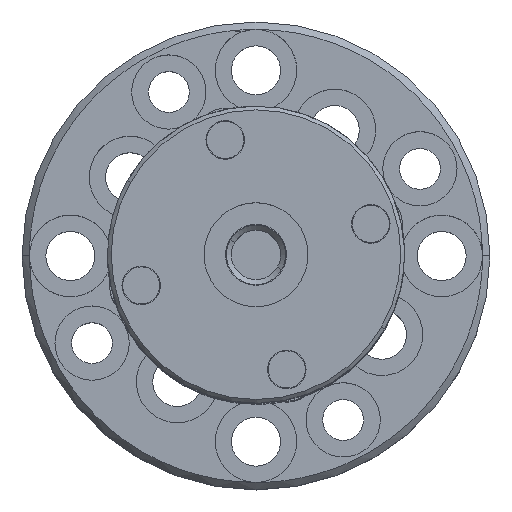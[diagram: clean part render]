
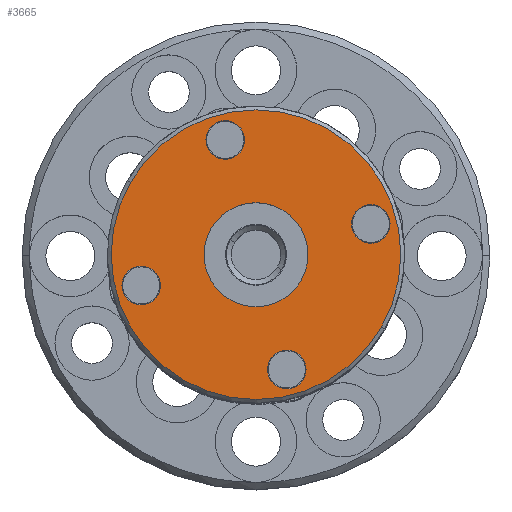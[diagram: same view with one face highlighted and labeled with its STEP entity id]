
A CAD part, top view. The second image highlights one B-rep face of the part: STEP entity #3665.
In plain terms, the highlighted planar face has unit normal (0, 0, 1).
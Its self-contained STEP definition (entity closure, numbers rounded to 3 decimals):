
#225 = ORIENTED_EDGE ( 'NONE', *, *, #18346, .T. ) ;
#433 = CARTESIAN_POINT ( 'NONE',  ( 0., 0., 105. ) ) ;
#485 = VERTEX_POINT ( 'NONE', #17928 ) ;
#488 = FACE_OUTER_BOUND ( 'NONE', #12272, .T. ) ;
#521 = DIRECTION ( 'NONE',  ( 0.866, -0.5, 0. ) ) ;
#548 = DIRECTION ( 'NONE',  ( 0., 0., -1. ) ) ;
#795 = CARTESIAN_POINT ( 'NONE',  ( -1.889, 14.155, 105. ) ) ;
#1003 = VERTEX_POINT ( 'NONE', #9321 ) ;
#1271 = ORIENTED_EDGE ( 'NONE', *, *, #7167, .T. ) ;
#2050 = DIRECTION ( 'NONE',  ( 0.866, -0.5, 0. ) ) ;
#2139 = CARTESIAN_POINT ( 'NONE',  ( 0., 0., 105. ) ) ;
#2197 = ORIENTED_EDGE ( 'NONE', *, *, #7912, .T. ) ;
#2254 = CARTESIAN_POINT ( 'NONE',  ( 1.889, -14.155, 105. ) ) ;
#2540 = DIRECTION ( 'NONE',  ( 0., 0., -1. ) ) ;
#2952 = CARTESIAN_POINT ( 'NONE',  ( -15.455, -4.141, 105. ) ) ;
#3186 = CARTESIAN_POINT ( 'NONE',  ( 0., 0., 105. ) ) ;
#3250 = DIRECTION ( 'NONE',  ( 0., 0., -1. ) ) ;
#3417 = EDGE_LOOP ( 'NONE', ( #6519, #15400 ) ) ;
#3532 = DIRECTION ( 'NONE',  ( 0., 0., -1. ) ) ;
#3665 = ADVANCED_FACE ( 'NONE', ( #488, #18617, #16872, #12857, #12652, #8493 ), #11625, .F. ) ;
#3750 = ORIENTED_EDGE ( 'NONE', *, *, #9901, .T. ) ;
#3784 = DIRECTION ( 'NONE',  ( 0.866, -0.5, 0. ) ) ;
#3938 = AXIS2_PLACEMENT_3D ( 'NONE', #12657, #3250, #14276 ) ;
#4033 = AXIS2_PLACEMENT_3D ( 'NONE', #19574, #10108, #521 ) ;
#4044 = EDGE_CURVE ( 'NONE', #14496, #11484, #12843, .T. ) ;
#4414 = VERTEX_POINT ( 'NONE', #9380 ) ;
#4559 = DIRECTION ( 'NONE',  ( 0.866, -0.5, 0. ) ) ;
#4778 = DIRECTION ( 'NONE',  ( 0.866, -0.5, 0. ) ) ;
#5587 = DIRECTION ( 'NONE',  ( 0., 0., -1. ) ) ;
#5635 = EDGE_CURVE ( 'NONE', #7105, #485, #13029, .T. ) ;
#5749 = ORIENTED_EDGE ( 'NONE', *, *, #16779, .F. ) ;
#5773 = EDGE_CURVE ( 'NONE', #485, #7105, #16015, .T. ) ;
#6075 = DIRECTION ( 'NONE',  ( 0., 0., -1. ) ) ;
#6316 = AXIS2_PLACEMENT_3D ( 'NONE', #10140, #548, #11686 ) ;
#6519 = ORIENTED_EDGE ( 'NONE', *, *, #8109, .T. ) ;
#6527 = CIRCLE ( 'NONE', #11711, 2.6 ) ;
#7105 = VERTEX_POINT ( 'NONE', #2254 ) ;
#7167 = EDGE_CURVE ( 'NONE', #1003, #19046, #7323, .T. ) ;
#7323 = CIRCLE ( 'NONE', #12255, 2.6 ) ;
#7388 = CARTESIAN_POINT ( 'NONE',  ( 4.141, -15.455, 105. ) ) ;
#7745 = CIRCLE ( 'NONE', #8327, 2.6 ) ;
#7879 = EDGE_LOOP ( 'NONE', ( #225, #1271 ) ) ;
#7912 = EDGE_CURVE ( 'NONE', #12334, #4414, #13111, .T. ) ;
#7994 = EDGE_CURVE ( 'NONE', #11884, #14288, #7745, .T. ) ;
#8026 = ORIENTED_EDGE ( 'NONE', *, *, #5773, .T. ) ;
#8043 = AXIS2_PLACEMENT_3D ( 'NONE', #7388, #18426, #8946 ) ;
#8109 = EDGE_CURVE ( 'NONE', #14288, #11884, #17065, .T. ) ;
#8287 = AXIS2_PLACEMENT_3D ( 'NONE', #3186, #14206, #4778 ) ;
#8327 = AXIS2_PLACEMENT_3D ( 'NONE', #14987, #5587, #16600 ) ;
#8493 = FACE_BOUND ( 'NONE', #11263, .T. ) ;
#8523 = DIRECTION ( 'NONE',  ( 0., 0., -1. ) ) ;
#8670 = ORIENTED_EDGE ( 'NONE', *, *, #16668, .T. ) ;
#8703 = AXIS2_PLACEMENT_3D ( 'NONE', #433, #11563, #2050 ) ;
#8720 = CIRCLE ( 'NONE', #4033, 2.6 ) ;
#8946 = DIRECTION ( 'NONE',  ( 0.866, -0.5, 0. ) ) ;
#9232 = CARTESIAN_POINT ( 'NONE',  ( 16.887, -9.75, 105. ) ) ;
#9321 = CARTESIAN_POINT ( 'NONE',  ( -17.706, -2.841, 105. ) ) ;
#9380 = CARTESIAN_POINT ( 'NONE',  ( 6.062, -3.5, 105. ) ) ;
#9446 = ORIENTED_EDGE ( 'NONE', *, *, #18444, .T. ) ;
#9504 = ORIENTED_EDGE ( 'NONE', *, *, #5635, .T. ) ;
#9901 = EDGE_CURVE ( 'NONE', #20209, #11507, #8720, .T. ) ;
#10108 = DIRECTION ( 'NONE',  ( 0., 0., -1. ) ) ;
#10140 = CARTESIAN_POINT ( 'NONE',  ( 4.141, -15.455, 105. ) ) ;
#10829 = CARTESIAN_POINT ( 'NONE',  ( 17.706, 2.841, 105. ) ) ;
#10884 = ORIENTED_EDGE ( 'NONE', *, *, #4044, .F. ) ;
#11038 = AXIS2_PLACEMENT_3D ( 'NONE', #12929, #3532, #14558 ) ;
#11131 = EDGE_LOOP ( 'NONE', ( #8670, #2197 ) ) ;
#11263 = EDGE_LOOP ( 'NONE', ( #8026, #9504 ) ) ;
#11484 = VERTEX_POINT ( 'NONE', #9232 ) ;
#11507 = VERTEX_POINT ( 'NONE', #18635 ) ;
#11563 = DIRECTION ( 'NONE',  ( 0., 0., -1. ) ) ;
#11625 = PLANE ( 'NONE',  #13309 ) ;
#11686 = DIRECTION ( 'NONE',  ( 0.866, -0.5, 0. ) ) ;
#11711 = AXIS2_PLACEMENT_3D ( 'NONE', #2952, #13996, #4559 ) ;
#11884 = VERTEX_POINT ( 'NONE', #18608 ) ;
#12017 = CARTESIAN_POINT ( 'NONE',  ( -15.455, -4.141, 105. ) ) ;
#12255 = AXIS2_PLACEMENT_3D ( 'NONE', #12017, #2540, #13594 ) ;
#12272 = EDGE_LOOP ( 'NONE', ( #5749, #10884 ) ) ;
#12334 = VERTEX_POINT ( 'NONE', #16024 ) ;
#12652 = FACE_BOUND ( 'NONE', #3417, .T. ) ;
#12657 = CARTESIAN_POINT ( 'NONE',  ( -4.141, 15.455, 105. ) ) ;
#12843 = CIRCLE ( 'NONE', #18070, 19.5 ) ;
#12857 = FACE_BOUND ( 'NONE', #7879, .T. ) ;
#12929 = CARTESIAN_POINT ( 'NONE',  ( 0., 0., 105. ) ) ;
#13029 = CIRCLE ( 'NONE', #6316, 2.6 ) ;
#13111 = CIRCLE ( 'NONE', #8703, 7. ) ;
#13197 = DIRECTION ( 'NONE',  ( 0., 0., -1. ) ) ;
#13309 = AXIS2_PLACEMENT_3D ( 'NONE', #18023, #8523, #19605 ) ;
#13594 = DIRECTION ( 'NONE',  ( 0.866, -0.5, 0. ) ) ;
#13823 = CIRCLE ( 'NONE', #8287, 7. ) ;
#13996 = DIRECTION ( 'NONE',  ( 0., 0., -1. ) ) ;
#14069 = CIRCLE ( 'NONE', #11038, 19.5 ) ;
#14154 = CIRCLE ( 'NONE', #3938, 2.6 ) ;
#14206 = DIRECTION ( 'NONE',  ( 0., 0., -1. ) ) ;
#14276 = DIRECTION ( 'NONE',  ( 0.866, -0.5, 0. ) ) ;
#14288 = VERTEX_POINT ( 'NONE', #10829 ) ;
#14496 = VERTEX_POINT ( 'NONE', #14605 ) ;
#14558 = DIRECTION ( 'NONE',  ( 0.866, -0.5, 0. ) ) ;
#14605 = CARTESIAN_POINT ( 'NONE',  ( -16.887, 9.75, 105. ) ) ;
#14987 = CARTESIAN_POINT ( 'NONE',  ( 15.455, 4.141, 105. ) ) ;
#15400 = ORIENTED_EDGE ( 'NONE', *, *, #7994, .T. ) ;
#15500 = CARTESIAN_POINT ( 'NONE',  ( 15.455, 4.141, 105. ) ) ;
#16015 = CIRCLE ( 'NONE', #8043, 2.6 ) ;
#16024 = CARTESIAN_POINT ( 'NONE',  ( -6.062, 3.5, 105. ) ) ;
#16600 = DIRECTION ( 'NONE',  ( 0.866, -0.5, 0. ) ) ;
#16668 = EDGE_CURVE ( 'NONE', #4414, #12334, #13823, .T. ) ;
#16779 = EDGE_CURVE ( 'NONE', #11484, #14496, #14069, .T. ) ;
#16872 = FACE_BOUND ( 'NONE', #18235, .T. ) ;
#17065 = CIRCLE ( 'NONE', #18528, 2.6 ) ;
#17074 = DIRECTION ( 'NONE',  ( 0.866, -0.5, 0. ) ) ;
#17928 = CARTESIAN_POINT ( 'NONE',  ( 6.393, -16.755, 105. ) ) ;
#18023 = CARTESIAN_POINT ( 'NONE',  ( 0., 0., 105. ) ) ;
#18070 = AXIS2_PLACEMENT_3D ( 'NONE', #2139, #13197, #3784 ) ;
#18235 = EDGE_LOOP ( 'NONE', ( #3750, #9446 ) ) ;
#18346 = EDGE_CURVE ( 'NONE', #19046, #1003, #6527, .T. ) ;
#18426 = DIRECTION ( 'NONE',  ( 0., 0., -1. ) ) ;
#18444 = EDGE_CURVE ( 'NONE', #11507, #20209, #14154, .T. ) ;
#18528 = AXIS2_PLACEMENT_3D ( 'NONE', #15500, #6075, #17074 ) ;
#18608 = CARTESIAN_POINT ( 'NONE',  ( 13.203, 5.441, 105. ) ) ;
#18617 = FACE_BOUND ( 'NONE', #11131, .T. ) ;
#18635 = CARTESIAN_POINT ( 'NONE',  ( -6.393, 16.755, 105. ) ) ;
#19046 = VERTEX_POINT ( 'NONE', #19386 ) ;
#19386 = CARTESIAN_POINT ( 'NONE',  ( -13.203, -5.441, 105. ) ) ;
#19574 = CARTESIAN_POINT ( 'NONE',  ( -4.141, 15.455, 105. ) ) ;
#19605 = DIRECTION ( 'NONE',  ( 0.866, -0.5, 0. ) ) ;
#20209 = VERTEX_POINT ( 'NONE', #795 ) ;
